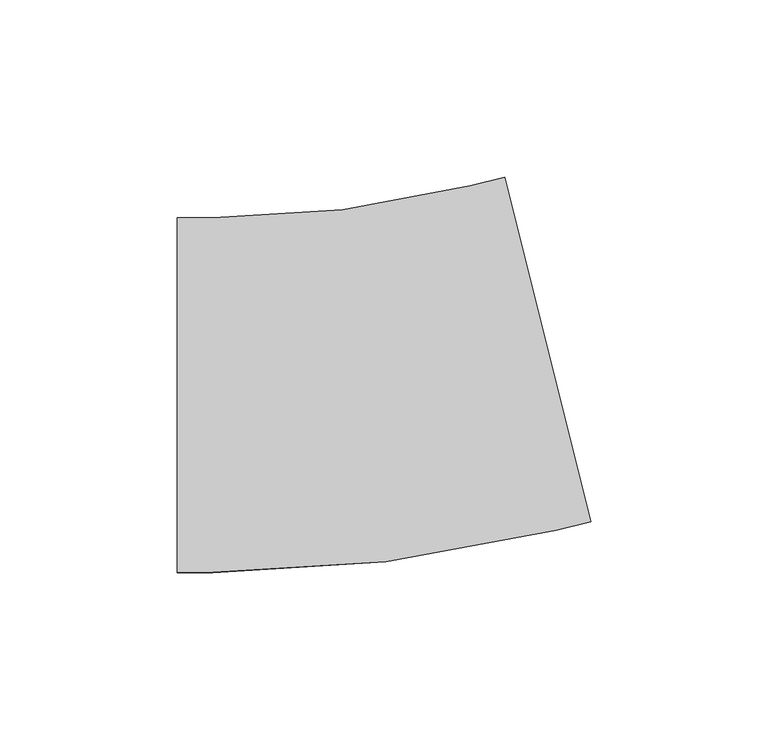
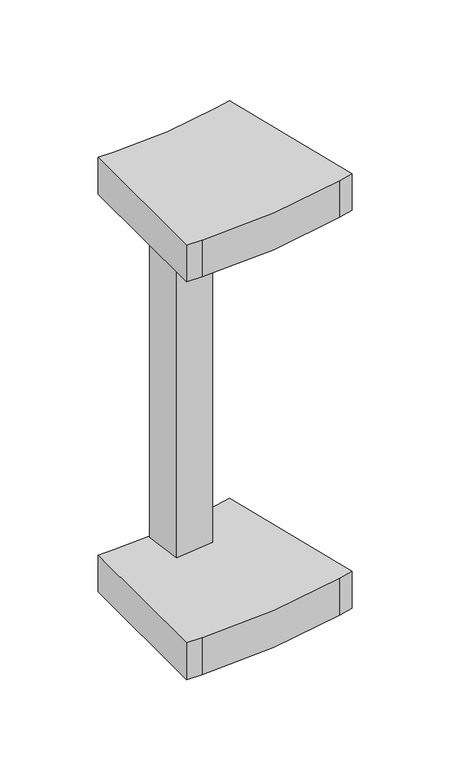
"""IFC4 building model written with IfcOpenShell, lengths in millimetres: cable carrier fitting geometry, ADSK_Поворот вертикальный наружный_Лестничный лоток : Радиус 300 мм."""

from ifc_helpers import new_model, si_unit, point, frame, frame_2d, origin, place, context, project, spatial, polyline, circle_curve, trimmed, segment, composite_curve, outline, extrude, source, transform, mapped, element, save


def cable_carrier_fitting_4d649961(model_context):
    return source(origin(), model_context, "Body", "SweptSolid", [
        extrude(outline(polyline([(6.1915428, 53.7838952), (9.2870241, 28.5732229), (-15.9236481, 25.4777416), (-19.0191294, 50.6884138), (6.1915428, 53.7838952)])), frame((0.0, 0.0, -124.6), z_axis=(0.0, 0.0, 1.0), x_axis=(1.0, 0.0, 0.0)), (0.0, 0.0, 1.0), 249.2),
        extrude(outline(composite_curve([segment(polyline([(-52.9745963, -50.0), (-52.9745963, 50.0), (-42.9745963, 50.0)]), True, "CONTINUOUS"), segment(trimmed(circle_curve(frame_2d((-42.9745963, 350.0)), 300.0), [point((-42.9745963, 50.0))], [point((29.6019724, 58.9112821))], True, "CARTESIAN"), True, "CONTINUOUS"), segment(polyline([(29.6019724, 58.9112821), (39.3049296, 61.3305011), (63.4971192, -35.6990716), (53.7941619, -38.1182905)]), True, "CONTINUOUS"), segment(trimmed(circle_curve(frame_2d((-42.9745963, 350.0)), 400.0), [point((53.7941619, -38.1182905))], [point((-42.9745963, -50.0))], False, "CARTESIAN"), True, "CONTINUOUS"), segment(polyline([(-42.9745963, -50.0), (-52.9745963, -50.0)]), True, "CONTINUOUS")], self_intersect=False)), frame((0.0, 0.0, 124.6), z_axis=(0.0, 0.0, 1.0), x_axis=(1.0, 0.0, 0.0)), (0.0, 0.0, 1.0), 25.4),
        extrude(outline(composite_curve([segment(polyline([(-52.9745963, -50.0), (-52.9745963, 50.0), (-42.9745963, 50.0)]), True, "CONTINUOUS"), segment(trimmed(circle_curve(frame_2d((-42.9745963, 350.0)), 300.0), [point((-42.9745963, 50.0))], [point((29.6019724, 58.9112821))], True, "CARTESIAN"), True, "CONTINUOUS"), segment(polyline([(29.6019724, 58.9112821), (39.3049296, 61.3305011), (63.4971192, -35.6990716), (53.7941619, -38.1182905)]), True, "CONTINUOUS"), segment(trimmed(circle_curve(frame_2d((-42.9745963, 350.0)), 400.0), [point((53.7941619, -38.1182905))], [point((-42.9745963, -50.0))], False, "CARTESIAN"), True, "CONTINUOUS"), segment(polyline([(-42.9745963, -50.0), (-52.9745963, -50.0)]), True, "CONTINUOUS")], self_intersect=False)), frame((0.0, 0.0, -150.0), z_axis=(0.0, 0.0, 1.0), x_axis=(1.0, 0.0, 0.0)), (0.0, 0.0, 1.0), 25.4),
    ])


if __name__ == "__main__":
    model = new_model("IFC4")
    model_context = context("Model", 3, world=origin())
    ifc_project = project(units=[si_unit("LENGTHUNIT", "METRE", prefix="MILLI")], contexts=[model_context])
    site = spatial("IfcSite", under=ifc_project)
    building = spatial("IfcBuilding", under=site)
    placement = place(None, origin())
    cable_carrier_fitting_shape = cable_carrier_fitting_4d649961(model_context)
    element("IfcCableCarrierFitting", 1, ObjectType="ADSK_Поворот вертикальный наружный_Лестничный лоток : Радиус 300 мм", at=placement, inside=building, context=model_context, shape_type="MappedRepresentation", body=[
        mapped(cable_carrier_fitting_shape, transform((0.0, 0.0, 0.0), x_axis=(1.0, 0.0, 0.0), y_axis=(0.0, 1.0, 0.0), z_axis=(0.0, 0.0, 1.0))),
    ])
    save(model, "model.ifc")
